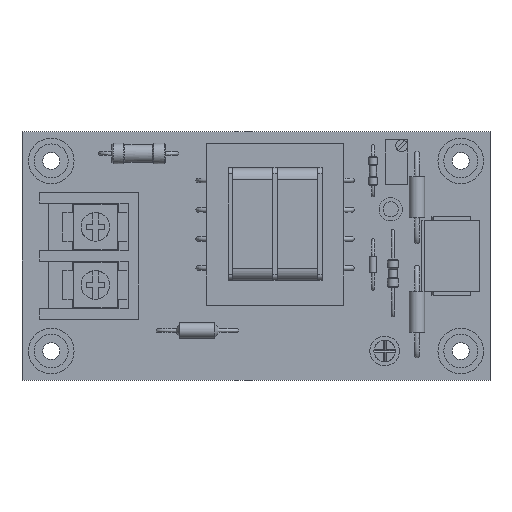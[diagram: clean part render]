
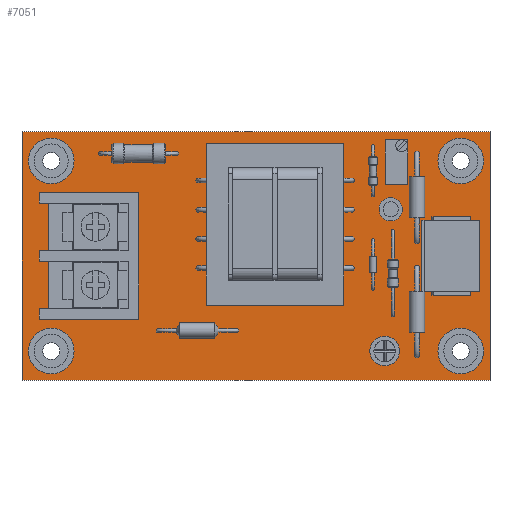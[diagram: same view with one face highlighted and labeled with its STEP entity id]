
A CAD part, top view. The second image highlights one B-rep face of the part: STEP entity #7051.
In plain terms, the highlighted planar face has unit normal (0, 0, 1).
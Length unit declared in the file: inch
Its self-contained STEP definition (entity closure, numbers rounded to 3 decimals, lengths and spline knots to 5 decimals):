
#221=CIRCLE('',#7708,0.145);
#223=CIRCLE('',#7711,0.145);
#225=CIRCLE('',#7714,0.145);
#226=CIRCLE('',#7716,0.145);
#328=FACE_BOUND('',#3066,.T.);
#329=FACE_BOUND('',#3067,.T.);
#330=FACE_BOUND('',#3068,.T.);
#331=FACE_BOUND('',#3069,.T.);
#1009=LINE('',#17573,#1694);
#1010=LINE('',#17575,#1695);
#1011=LINE('',#17577,#1696);
#1012=LINE('',#17578,#1697);
#1694=VECTOR('',#9577,0.3937);
#1695=VECTOR('',#9578,0.3937);
#1696=VECTOR('',#9579,0.3937);
#1697=VECTOR('',#9580,0.3937);
#2147=PLANE('',#7718);
#2587=FACE_OUTER_BOUND('',#3065,.T.);
#3065=EDGE_LOOP('',(#6563,#6564,#6565,#6566));
#3066=EDGE_LOOP('',(#6567));
#3067=EDGE_LOOP('',(#6568));
#3068=EDGE_LOOP('',(#6569));
#3069=EDGE_LOOP('',(#6570));
#3754=VERTEX_POINT('',#17549);
#3756=VERTEX_POINT('',#17555);
#3758=VERTEX_POINT('',#17561);
#3759=VERTEX_POINT('',#17565);
#3761=VERTEX_POINT('',#17571);
#3762=VERTEX_POINT('',#17572);
#3763=VERTEX_POINT('',#17574);
#3764=VERTEX_POINT('',#17576);
#4689=EDGE_CURVE('',#3754,#3754,#221,.T.);
#4692=EDGE_CURVE('',#3756,#3756,#223,.T.);
#4695=EDGE_CURVE('',#3758,#3758,#225,.T.);
#4696=EDGE_CURVE('',#3759,#3759,#226,.T.);
#4699=EDGE_CURVE('',#3761,#3762,#1009,.T.);
#4700=EDGE_CURVE('',#3762,#3763,#1010,.T.);
#4701=EDGE_CURVE('',#3763,#3764,#1011,.T.);
#4702=EDGE_CURVE('',#3764,#3761,#1012,.T.);
#6563=ORIENTED_EDGE('',*,*,#4699,.T.);
#6564=ORIENTED_EDGE('',*,*,#4700,.T.);
#6565=ORIENTED_EDGE('',*,*,#4701,.T.);
#6566=ORIENTED_EDGE('',*,*,#4702,.T.);
#6567=ORIENTED_EDGE('',*,*,#4689,.T.);
#6568=ORIENTED_EDGE('',*,*,#4692,.T.);
#6569=ORIENTED_EDGE('',*,*,#4695,.T.);
#6570=ORIENTED_EDGE('',*,*,#4696,.T.);
#7051=ADVANCED_FACE('',(#2587,#328,#329,#330,#331),#2147,.T.);
#7708=AXIS2_PLACEMENT_3D('',#17551,#9552,#9553);
#7711=AXIS2_PLACEMENT_3D('',#17557,#9559,#9560);
#7714=AXIS2_PLACEMENT_3D('',#17563,#9566,#9567);
#7716=AXIS2_PLACEMENT_3D('',#17566,#9570,#9571);
#7718=AXIS2_PLACEMENT_3D('',#17570,#9575,#9576);
#9552=DIRECTION('center_axis',(0.,0.,-1.));
#9553=DIRECTION('ref_axis',(-1.,0.,0.));
#9559=DIRECTION('center_axis',(0.,0.,-1.));
#9560=DIRECTION('ref_axis',(-1.,0.,0.));
#9566=DIRECTION('center_axis',(0.,0.,-1.));
#9567=DIRECTION('ref_axis',(-1.,0.,0.));
#9570=DIRECTION('center_axis',(0.,0.,-1.));
#9571=DIRECTION('ref_axis',(-1.,0.,0.));
#9575=DIRECTION('center_axis',(0.,0.,1.));
#9576=DIRECTION('ref_axis',(1.,0.,0.));
#9577=DIRECTION('',(0.,1.,0.));
#9578=DIRECTION('',(-1.,0.,0.));
#9579=DIRECTION('',(0.,-1.,0.));
#9580=DIRECTION('',(1.,0.,0.));
#17549=CARTESIAN_POINT('',(1.49345,3.31441,0.));
#17551=CARTESIAN_POINT('Origin',(1.34845,3.31441,0.));
#17555=CARTESIAN_POINT('',(1.49345,1.68941,0.));
#17557=CARTESIAN_POINT('Origin',(1.34845,1.68941,0.));
#17561=CARTESIAN_POINT('',(4.99345,1.68941,0.));
#17563=CARTESIAN_POINT('Origin',(4.84845,1.68941,0.));
#17565=CARTESIAN_POINT('',(4.99345,3.31441,0.));
#17566=CARTESIAN_POINT('Origin',(4.84845,3.31441,0.));
#17570=CARTESIAN_POINT('Origin',(3.09845,1.43941,0.));
#17571=CARTESIAN_POINT('',(5.09845,1.43941,0.));
#17572=CARTESIAN_POINT('',(5.09845,3.56441,0.));
#17573=CARTESIAN_POINT('',(5.09845,1.43941,0.));
#17574=CARTESIAN_POINT('',(1.09845,3.56441,0.));
#17575=CARTESIAN_POINT('',(5.09845,3.56441,0.));
#17576=CARTESIAN_POINT('',(1.09845,1.43941,0.));
#17577=CARTESIAN_POINT('',(1.09845,3.56441,0.));
#17578=CARTESIAN_POINT('',(1.09845,1.43941,0.));
